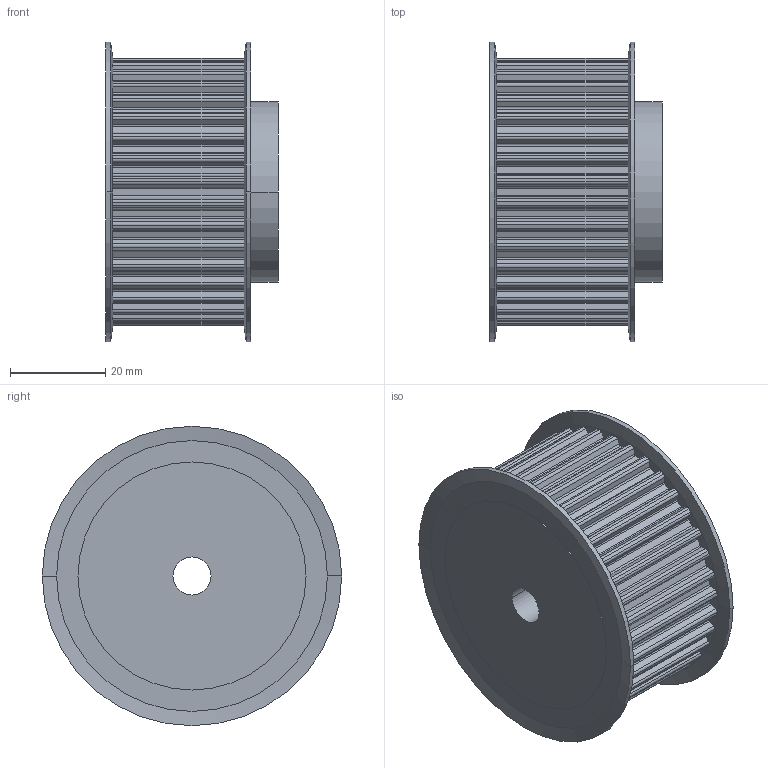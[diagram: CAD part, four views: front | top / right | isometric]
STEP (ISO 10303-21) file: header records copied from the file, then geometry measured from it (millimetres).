
FILE_DESCRIPTION( ( '' ), '1' );
FILE_NAME( 'C:/Users/Stangenbergd/Documents/CAD_Step/1/16243600.stp', '2021-10-19T08:46:17', ( '' ), ( '' ), ' ', ' ', ' ' );
FILE_SCHEMA( ( 'CONFIG_CONTROL_DESIGN' ) );
Length unit declared in the file: millimetre
Products named in the file (1): 1
Bounding box: 36.27 x 63 x 63 mm (x, y, z)
Volume: 75984.3 mm3; surface area: 16984.4 mm2
Topology: 1 solids, 1 shells, 315 faces, 916 edges, 608 vertices
Faces by surface type: cylinder 192, plane 115, cone 8
Entity records: 10606 total; most frequent: DIRECTION 1940, CARTESIAN_POINT 1840, ORIENTED_EDGE 1832, EDGE_CURVE 916, AXIS2_PLACEMENT_3D 708, VERTEX_POINT 608, LINE 524, VECTOR 524
